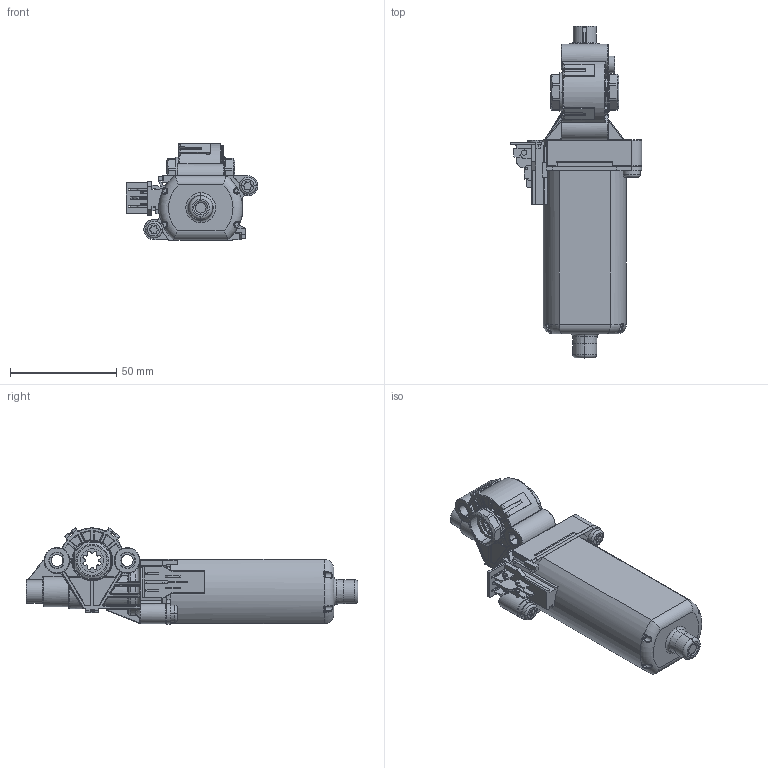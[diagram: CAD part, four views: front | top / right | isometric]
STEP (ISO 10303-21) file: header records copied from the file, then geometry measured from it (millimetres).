
FILE_DESCRIPTION((''),'2;1');
FILE_NAME('0390201903_SW0002','2014-08-12T',('ma73kor'),(''),'PRO/ENGINEER BY PARAMETRIC TECHNOLOGY CORPORATION, 2010140','PRO/ENGINEER BY PARAMETRIC TECHNOLOGY CORPORATION, 2010140','');
FILE_SCHEMA(('CONFIG_CONTROL_DESIGN'));
Products named in the file (1): 0390201903_SW0002
Bounding box: 61.74 x 156.1 x 45.25 mm (x, y, z)
Volume: 129841.7 mm3; surface area: 27489.6 mm2
Topology: 1 solids, 2 shells, 1780 faces, 4335 edges, 2546 vertices
Faces by surface type: cylinder 640, plane 447, bspline 314, torus 283, sphere 88, cone 8
Entity records: 68699 total; most frequent: CARTESIAN_POINT 28304, ORIENTED_EDGE 8668, DIRECTION 8490, EDGE_CURVE 4334, AXIS2_PLACEMENT_3D 3392, VERTEX_POINT 2546, CIRCLE 1926, EDGE_LOOP 1814
